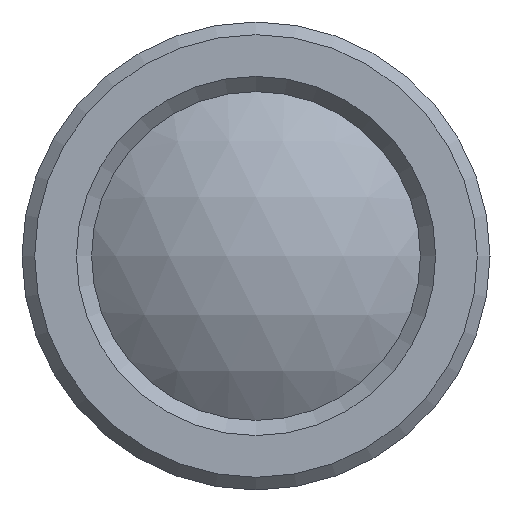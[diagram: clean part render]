
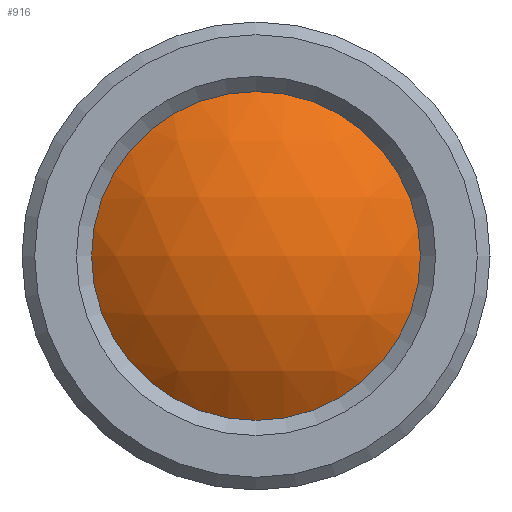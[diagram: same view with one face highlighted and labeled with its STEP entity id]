
A CAD part, left-side view. The second image highlights one B-rep face of the part: STEP entity #916.
In plain terms, the highlighted spherical face has radius 10.3 mm.
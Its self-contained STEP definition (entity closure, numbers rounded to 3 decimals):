
#14=SPHERICAL_SURFACE('',#1022,10.3);
#254=FACE_OUTER_BOUND('',#323,.T.);
#323=EDGE_LOOP('',(#796));
#365=CIRCLE('',#1023,6.5);
#453=VERTEX_POINT('',#4926);
#571=EDGE_CURVE('',#453,#453,#365,.T.);
#796=ORIENTED_EDGE('',*,*,#571,.T.);
#916=ADVANCED_FACE('',(#254),#14,.T.);
#1022=AXIS2_PLACEMENT_3D('',#4925,#1206,#1207);
#1023=AXIS2_PLACEMENT_3D('',#4927,#1208,#1209);
#1206=DIRECTION('center_axis',(0.,0.,-1.));
#1207=DIRECTION('ref_axis',(0.,1.,0.));
#1208=DIRECTION('center_axis',(-1.,0.,0.));
#1209=DIRECTION('ref_axis',(0.,-1.,0.));
#4925=CARTESIAN_POINT('Origin',(10.3,0.,0.));
#4926=CARTESIAN_POINT('',(2.31,6.5,0.));
#4927=CARTESIAN_POINT('Origin',(2.31,0.,0.));
